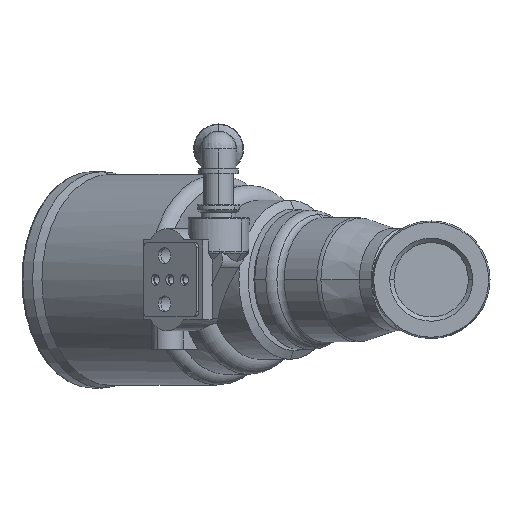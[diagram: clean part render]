
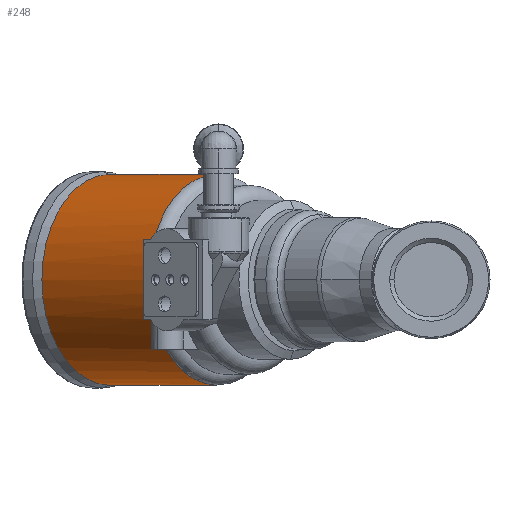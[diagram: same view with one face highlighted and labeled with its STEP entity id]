
A CAD part, left-side view. The second image highlights one B-rep face of the part: STEP entity #248.
In plain terms, the highlighted cylindrical face has radius 21.15 mm (diameter 42.3 mm), a partial arc.
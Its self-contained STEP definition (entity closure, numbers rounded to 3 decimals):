
#248=ADVANCED_FACE('',(#713),#714,.T.);
#713=FACE_OUTER_BOUND('',#1264,.T.);
#714=CYLINDRICAL_SURFACE('',#1265,21.15);
#1264=EDGE_LOOP('',(#2893,#2894,#2895,#2896,#2897,#2898,#2899,#2900));
#1265=AXIS2_PLACEMENT_3D('',#2901,#2902,#2903);
#2893=ORIENTED_EDGE('',*,*,#3632,.T.);
#2894=ORIENTED_EDGE('',*,*,#4057,.F.);
#2895=ORIENTED_EDGE('',*,*,#3634,.T.);
#2896=ORIENTED_EDGE('',*,*,#4058,.T.);
#2897=ORIENTED_EDGE('',*,*,#4055,.T.);
#2898=ORIENTED_EDGE('',*,*,#4051,.T.);
#2899=ORIENTED_EDGE('',*,*,#4054,.T.);
#2900=ORIENTED_EDGE('',*,*,#3628,.T.);
#2901=CARTESIAN_POINT('',(64.201,53.868,0.0));
#2902=DIRECTION('',(-0.643,-0.766,0.));
#2903=DIRECTION('',(0.,0.,1.0));
#3628=EDGE_CURVE('',#4356,#4354,#4357,.T.);
#3632=EDGE_CURVE('',#4354,#4298,#4363,.T.);
#3634=EDGE_CURVE('',#4300,#4364,#4366,.T.);
#4051=EDGE_CURVE('',#5048,#5049,#5050,.T.);
#4054=EDGE_CURVE('',#5049,#4356,#5053,.T.);
#4055=EDGE_CURVE('',#5054,#5048,#5055,.T.);
#4057=EDGE_CURVE('',#4300,#4298,#5057,.T.);
#4058=EDGE_CURVE('',#4364,#5054,#5058,.T.);
#4298=VERTEX_POINT('',#5469);
#4300=VERTEX_POINT('',#5472);
#4354=VERTEX_POINT('',#5599);
#4356=VERTEX_POINT('',#5601);
#4357=CIRCLE('',#5602,21.15);
#4363=LINE('',#5641,#5642);
#4364=VERTEX_POINT('',#5643);
#4366=LINE('',#5645,#5646);
#5048=VERTEX_POINT('',#7445);
#5049=VERTEX_POINT('',#7446);
#5050=ELLIPSE('',#7447,22.685,21.15);
#5053=LINE('',#7452,#7453);
#5054=VERTEX_POINT('',#7454);
#5055=LINE('',#7455,#7456);
#5057=CIRCLE('',#7491,21.15);
#5058=CIRCLE('',#7492,21.15);
#5469=CARTESIAN_POINT('',(73.213,64.609,21.15));
#5472=CARTESIAN_POINT('',(73.213,64.609,-21.15));
#5599=CARTESIAN_POINT('',(55.188,43.128,21.15));
#5601=CARTESIAN_POINT('',(40.19,55.713,8.0));
#5602=AXIS2_PLACEMENT_3D('',#8606,#8607,#8608);
#5641=CARTESIAN_POINT('',(64.201,53.868,21.15));
#5642=VECTOR('',#8615,1.0);
#5643=CARTESIAN_POINT('',(55.188,43.128,-21.15));
#5645=CARTESIAN_POINT('',(64.201,53.868,-21.15));
#5646=VECTOR('',#8619,1.0);
#7445=CARTESIAN_POINT('',(40.582,56.18,-8.0));
#7446=CARTESIAN_POINT('',(40.582,56.18,8.0));
#7447=AXIS2_PLACEMENT_3D('',#9436,#9437,#9438);
#7452=CARTESIAN_POINT('',(41.187,56.9,8.0));
#7453=VECTOR('',#9441,1.);
#7454=CARTESIAN_POINT('',(40.19,55.713,-8.0));
#7455=CARTESIAN_POINT('',(41.187,56.9,-8.0));
#7456=VECTOR('',#9442,1.);
#7491=AXIS2_PLACEMENT_3D('',#9443,#9444,#9445);
#7492=AXIS2_PLACEMENT_3D('',#9446,#9447,#9448);
#8606=CARTESIAN_POINT('',(55.188,43.128,0.0));
#8607=DIRECTION('',(0.643,0.766,0.0));
#8608=DIRECTION('',(0.,0.,1.0));
#8615=DIRECTION('',(0.643,0.766,0.0));
#8619=DIRECTION('',(-0.643,-0.766,0.0));
#9436=CARTESIAN_POINT('',(60.462,49.412,0.0));
#9437=DIRECTION('',(0.322,0.947,0.));
#9438=DIRECTION('',(0.947,-0.322,0.));
#9441=DIRECTION('',(-0.643,-0.766,0.0));
#9442=DIRECTION('',(0.643,0.766,0.0));
#9443=CARTESIAN_POINT('',(73.213,64.609,0.0));
#9444=DIRECTION('',(0.643,0.766,0.));
#9445=DIRECTION('',(0.,0.,1.0));
#9446=CARTESIAN_POINT('',(55.188,43.128,0.0));
#9447=DIRECTION('',(0.643,0.766,0.0));
#9448=DIRECTION('',(0.,0.,1.0));
